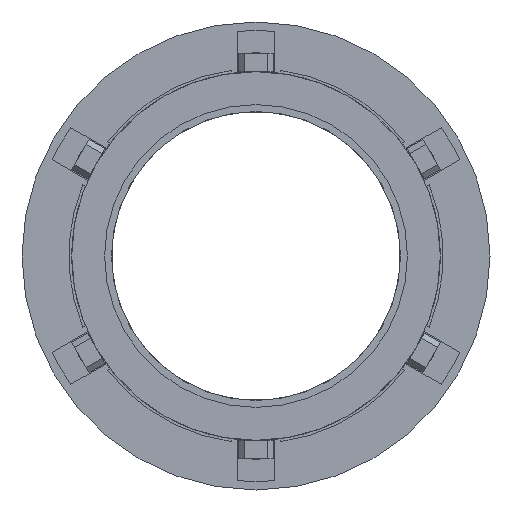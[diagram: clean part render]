
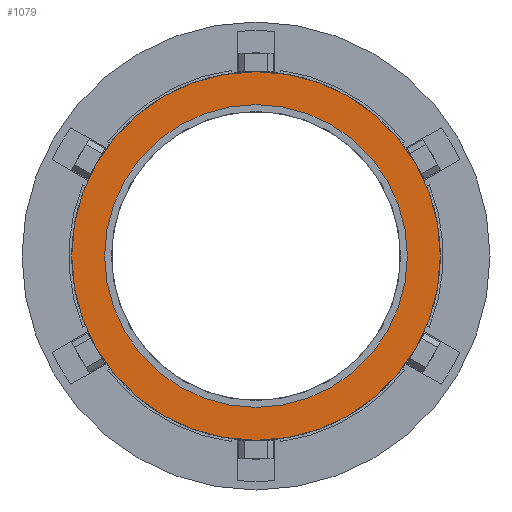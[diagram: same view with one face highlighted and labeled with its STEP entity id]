
A CAD part, front view. The second image highlights one B-rep face of the part: STEP entity #1079.
In plain terms, the highlighted planar face has unit normal (0, -1, 0).
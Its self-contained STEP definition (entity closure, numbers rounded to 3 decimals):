
#1079 = ADVANCED_FACE ( 'Defeatured_0_363', ( #3504, #4902 ), #8709, .F. ) ;
#2392 = EDGE_CURVE ( 'Defeatured_0_363+Defeatured_0_543+Defeatured_0_543+Defeatured_0_543', #20542, #13440, #6879, .T. ) ;
#3055 = CARTESIAN_POINT ( 'NONE',  ( 0., -3., 0. ) ) ;
#3504 = FACE_BOUND ( 'NONE', #11423, .T. ) ;
#3975 = CARTESIAN_POINT ( 'NONE',  ( 0., -3., 0. ) ) ;
#4902 = FACE_OUTER_BOUND ( 'NONE', #20416, .T. ) ;
#4979 = AXIS2_PLACEMENT_3D ( 'NONE', #3055, #15521, #12169 ) ;
#5149 = CARTESIAN_POINT ( 'NONE',  ( 0., -3., 0. ) ) ;
#5585 = DIRECTION ( 'NONE',  ( 0., 0., 1. ) ) ;
#5632 = CIRCLE ( 'NONE', #17800, 159.5 ) ;
#5936 = CIRCLE ( 'NONE', #11827, 159.5 ) ;
#6879 = CIRCLE ( 'NONE', #21625, 131. ) ;
#7200 = DIRECTION ( 'NONE',  ( 0., 1., 0. ) ) ;
#7276 = VERTEX_POINT ( 'NONE', #18475 ) ;
#7551 = DIRECTION ( 'NONE',  ( 0., 1., 0. ) ) ;
#8334 = ORIENTED_EDGE ( 'NONE', *, *, #18838, .F. ) ;
#8709 = PLANE ( 'NONE',  #4979 ) ;
#10136 = CARTESIAN_POINT ( 'NONE',  ( 0., -3., -159.5 ) ) ;
#10361 = DIRECTION ( 'NONE',  ( 0., 1., 0. ) ) ;
#10483 = VERTEX_POINT ( 'NONE', #10136 ) ;
#11423 = EDGE_LOOP ( 'NONE', ( #18192, #14104 ) ) ;
#11827 = AXIS2_PLACEMENT_3D ( 'NONE', #5149, #15639, #22815 ) ;
#12169 = DIRECTION ( 'NONE',  ( 0., 0., 1. ) ) ;
#12852 = CARTESIAN_POINT ( 'NONE',  ( 0., -3., 0. ) ) ;
#13440 = VERTEX_POINT ( 'NONE', #18641 ) ;
#13540 = AXIS2_PLACEMENT_3D ( 'NONE', #16958, #10361, #22504 ) ;
#14104 = ORIENTED_EDGE ( 'NONE', *, *, #22270, .T. ) ;
#15521 = DIRECTION ( 'NONE',  ( 0., 1., 0. ) ) ;
#15629 = EDGE_CURVE ( 'Defeatured_0_364+Defeatured_0_363+Defeatured_0_363+Defeatured_0_363', #10483, #7276, #5936, .T. ) ;
#15639 = DIRECTION ( 'NONE',  ( 0., 1., 0. ) ) ;
#16871 = CIRCLE ( 'NONE', #13540, 131. ) ;
#16958 = CARTESIAN_POINT ( 'NONE',  ( 0., -3., 0. ) ) ;
#17800 = AXIS2_PLACEMENT_3D ( 'NONE', #3975, #7551, #19902 ) ;
#18192 = ORIENTED_EDGE ( 'NONE', *, *, #2392, .T. ) ;
#18475 = CARTESIAN_POINT ( 'NONE',  ( 0., -3., 159.5 ) ) ;
#18641 = CARTESIAN_POINT ( 'NONE',  ( 0., -3., 131. ) ) ;
#18838 = EDGE_CURVE ( 'Defeatured_0_364+Defeatured_0_363+Defeatured_0_363+Defeatured_0_363', #7276, #10483, #5632, .T. ) ;
#19666 = ORIENTED_EDGE ( 'NONE', *, *, #15629, .F. ) ;
#19902 = DIRECTION ( 'NONE',  ( 0., 0., 1. ) ) ;
#20416 = EDGE_LOOP ( 'NONE', ( #19666, #8334 ) ) ;
#20542 = VERTEX_POINT ( 'NONE', #21844 ) ;
#21625 = AXIS2_PLACEMENT_3D ( 'NONE', #12852, #7200, #5585 ) ;
#21844 = CARTESIAN_POINT ( 'NONE',  ( 0., -3., -131. ) ) ;
#22270 = EDGE_CURVE ( 'Defeatured_0_363+Defeatured_0_543+Defeatured_0_543+Defeatured_0_543', #13440, #20542, #16871, .T. ) ;
#22504 = DIRECTION ( 'NONE',  ( 0., 0., 1. ) ) ;
#22815 = DIRECTION ( 'NONE',  ( 0., 0., 1. ) ) ;
